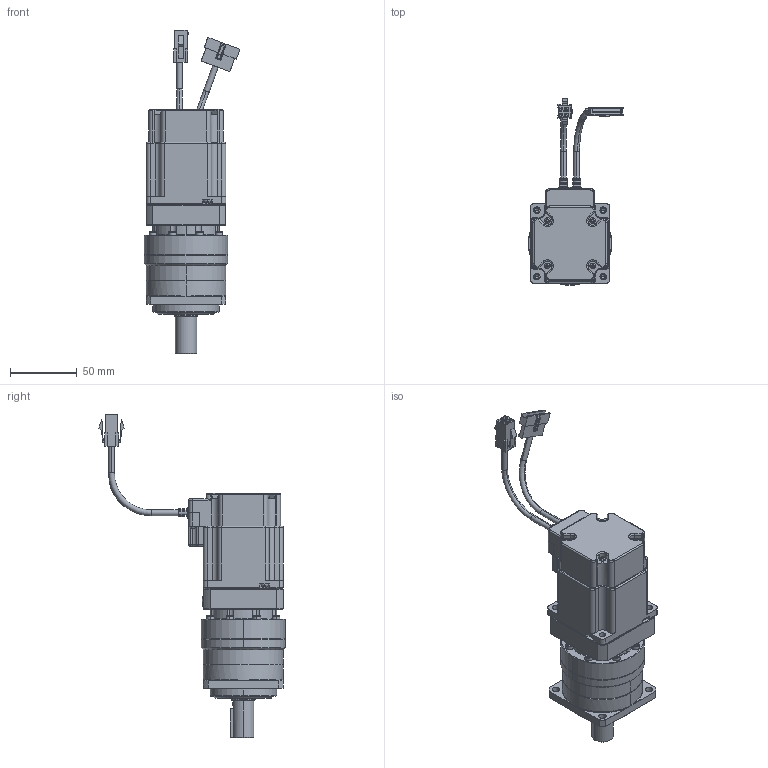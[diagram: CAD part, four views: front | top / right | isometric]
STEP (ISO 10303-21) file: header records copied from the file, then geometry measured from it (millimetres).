
FILE_DESCRIPTION (( 'STEP AP203' ), '1' );
FILE_NAME ('130416 Ezi-SERVO PG-ST-60S-PN3~10.STEP', '2013-04-16T08:32:33', ( '' ), ( '' ), 'SwSTEP 2.0', 'SolidWorks 2012', '' );
FILE_SCHEMA (( 'CONFIG_CONTROL_DESIGN' ));
Length unit declared in the file: metre
Products named in the file (15): 130416 Ezi-SERVO PG-ST-60S-PN3~10; ST56 1ST; MainEzM-60S-assembly-1; MainM3-screw10-1-2; MainM3-screw7-1-2; MainM3-screw9-1-2; MainM3-screw8-1-2; MainM3-screw12-1-2; MainM3-screw11-1-2; MainEZSV_60_Encoder_Cover-1-2; MainEZSV_60_Cable_Cover-1-2; Main60_Encoder_Plate-1-2; MainEncoder_Cable_60-1-2; MainPower_Cable_60-1-2; MainEzM-60S-1
Assembly tree (14 placements, depth 3):
  130416 Ezi-SERVO PG-ST-60S-PN3~10
    MainEzM-60S-assembly-1
      MainEzM-60S-1
      MainPower_Cable_60-1-2
      MainEncoder_Cable_60-1-2
      Main60_Encoder_Plate-1-2
      MainEZSV_60_Cable_Cover-1-2
      MainEZSV_60_Encoder_Cover-1-2
      MainM3-screw11-1-2
      MainM3-screw12-1-2
      MainM3-screw8-1-2
      MainM3-screw9-1-2
      MainM3-screw7-1-2
      MainM3-screw10-1-2
    ST56 1ST
Bounding box: 71.99 x 140.14 x 243 mm (x, y, z)
Volume: 413399.4 mm3; surface area: 89223.9 mm2
Topology: 13 solids, 13 shells, 1455 faces, 3798 edges, 2405 vertices
Faces by surface type: plane 712, cylinder 483, cone 118, torus 66, bspline 52, sphere 24
Entity records: 49552 total; most frequent: CARTESIAN_POINT 12859, ORIENTED_EDGE 7396, DIRECTION 7255, EDGE_CURVE 3698, AXIS2_PLACEMENT_3D 2670, VERTEX_POINT 2385, LINE 1915, VECTOR 1915
